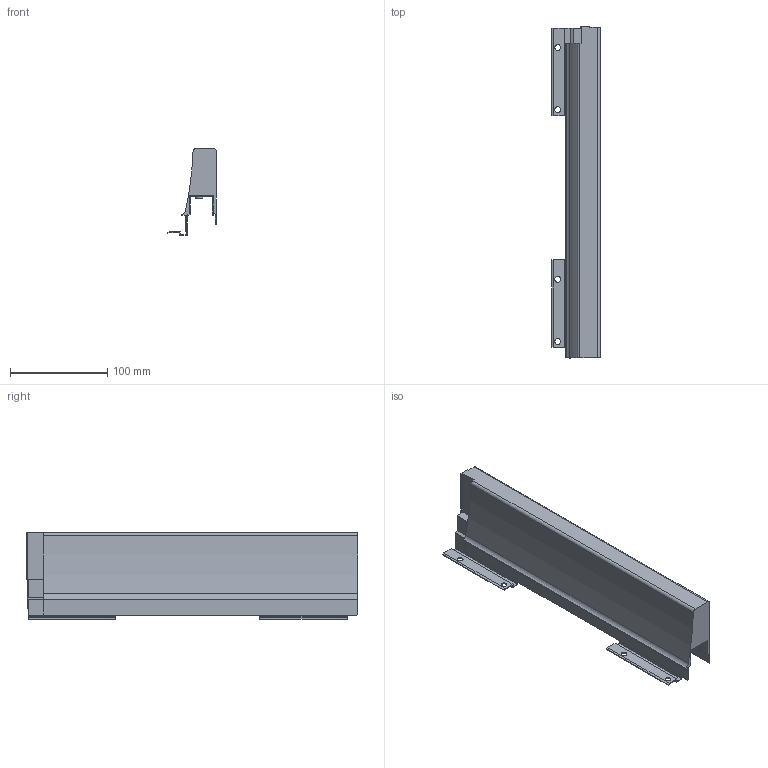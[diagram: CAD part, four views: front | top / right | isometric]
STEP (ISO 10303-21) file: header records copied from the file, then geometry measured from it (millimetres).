
FILE_DESCRIPTION (( 'STEP AP214' ), '1' );
FILE_NAME ('_XP Agantis Dekorseite H95 NL350 RE.step', '2010-07-08T06:05:23', ( 'grass' ), ( '' ), 'SwSTEP 2.0', 'SolidWorks 2010', '' );
FILE_SCHEMA (( 'AUTOMOTIVE_DESIGN' ));
Length unit declared in the file: millimetre
Products named in the file (1): _XP Agantis Dekorseite H95 NL350 RE
Bounding box: 50.01 x 341.5 x 89.5 mm (x, y, z)
Volume: 480183.4 mm3; surface area: 114382.6 mm2
Topology: 1 solids, 1 shells, 102 faces, 298 edges, 195 vertices
Faces by surface type: plane 79, cylinder 23
Entity records: 3399 total; most frequent: ORIENTED_EDGE 596, CARTESIAN_POINT 596, DIRECTION 551, EDGE_CURVE 298, VECTOR 251, LINE 251, VERTEX_POINT 195, AXIS2_PLACEMENT_3D 150
